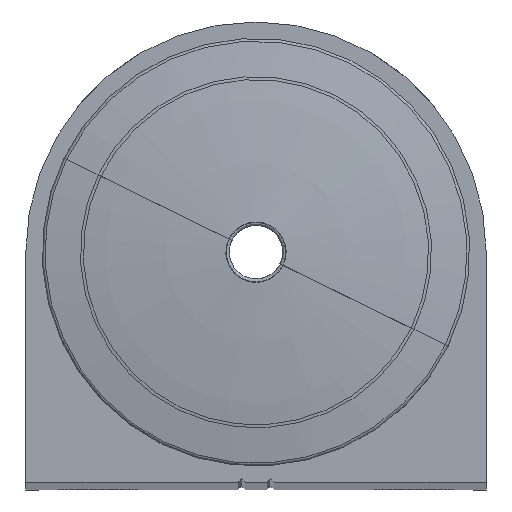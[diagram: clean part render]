
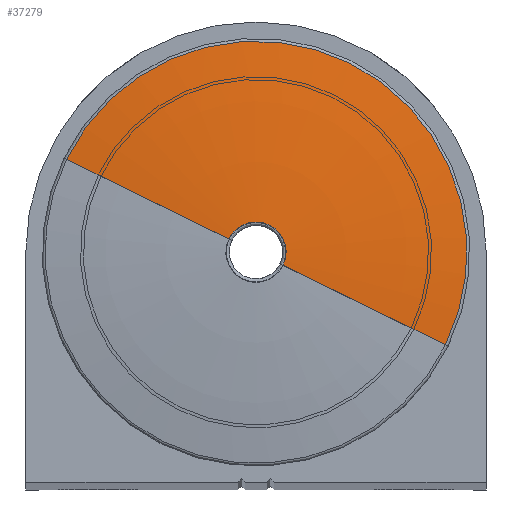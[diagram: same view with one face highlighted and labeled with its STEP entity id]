
A CAD part, top view. The second image highlights one B-rep face of the part: STEP entity #37279.
In plain terms, the highlighted toroidal (fillet/blend) face has major radius 5.57 mm and minor radius 140 mm.
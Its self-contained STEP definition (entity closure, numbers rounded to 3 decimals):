
#799 = CIRCLE ( 'NONE', #28055, 16.039 ) ;
#910 = CARTESIAN_POINT ( 'NONE',  ( 20.673, 14.539, 84.56 ) ) ;
#997 = EDGE_CURVE ( 'NONE', #20792, #35763, #18805, .T. ) ;
#1396 = CARTESIAN_POINT ( 'NONE',  ( 4.21, 22.593, 86.017 ) ) ;
#1439 = CIRCLE ( 'NONE', #32069, 140. ) ;
#1531 = VERTEX_POINT ( 'NONE', #4150 ) ;
#2461 = VERTEX_POINT ( 'NONE', #1396 ) ;
#4150 = CARTESIAN_POINT ( 'NONE',  ( -8.14, 28.636, 84.56 ) ) ;
#4397 = CARTESIAN_POINT ( 'NONE',  ( 6.267, 21.587, 86.017 ) ) ;
#5458 = ORIENTED_EDGE ( 'NONE', *, *, #997, .T. ) ;
#6773 = EDGE_CURVE ( 'NONE', #2461, #20792, #8320, .T. ) ;
#7141 = EDGE_CURVE ( 'NONE', #35763, #1531, #799, .T. ) ;
#7413 = DIRECTION ( 'NONE',  ( -0.898, 0.439, 0. ) ) ;
#8320 = CIRCLE ( 'NONE', #28798, 2.289 ) ;
#10531 = DIRECTION ( 'NONE',  ( 0.439, 0.898, 0. ) ) ;
#12623 = CARTESIAN_POINT ( 'NONE',  ( 6.267, 21.587, 84.56 ) ) ;
#14755 = DIRECTION ( 'NONE',  ( -0.439, -0.898, 0. ) ) ;
#15393 = DIRECTION ( 'NONE',  ( 0., 0., -1. ) ) ;
#15616 = DIRECTION ( 'NONE',  ( -0.898, 0.439, 0. ) ) ;
#15654 = ORIENTED_EDGE ( 'NONE', *, *, #6773, .T. ) ;
#18051 = AXIS2_PLACEMENT_3D ( 'NONE', #18177, #15393, #18430 ) ;
#18177 = CARTESIAN_POINT ( 'NONE',  ( 6.267, 21.587, -53.762 ) ) ;
#18430 = DIRECTION ( 'NONE',  ( -0.898, 0.439, 0. ) ) ;
#18805 = CIRCLE ( 'NONE', #20681, 140. ) ;
#20681 = AXIS2_PLACEMENT_3D ( 'NONE', #28470, #10531, #31511 ) ;
#20792 = VERTEX_POINT ( 'NONE', #35841 ) ;
#24405 = EDGE_LOOP ( 'NONE', ( #15654, #5458, #37568, #29649 ) ) ;
#25385 = DIRECTION ( 'NONE',  ( 0., 0., -1. ) ) ;
#28055 = AXIS2_PLACEMENT_3D ( 'NONE', #12623, #33626, #15616 ) ;
#28470 = CARTESIAN_POINT ( 'NONE',  ( 1.263, 24.035, -53.762 ) ) ;
#28798 = AXIS2_PLACEMENT_3D ( 'NONE', #4397, #25385, #7413 ) ;
#29649 = ORIENTED_EDGE ( 'NONE', *, *, #34708, .F. ) ;
#30888 = TOROIDAL_SURFACE ( 'NONE', #18051, -5.57, 140. ) ;
#31511 = DIRECTION ( 'NONE',  ( -0.898, 0.439, 0. ) ) ;
#32069 = AXIS2_PLACEMENT_3D ( 'NONE', #32746, #14755, #35788 ) ;
#32746 = CARTESIAN_POINT ( 'NONE',  ( 11.27, 19.139, -53.762 ) ) ;
#33626 = DIRECTION ( 'NONE',  ( 0., 0., 1. ) ) ;
#34708 = EDGE_CURVE ( 'NONE', #2461, #1531, #1439, .T. ) ;
#35763 = VERTEX_POINT ( 'NONE', #910 ) ;
#35788 = DIRECTION ( 'NONE',  ( 0.898, -0.439, 0. ) ) ;
#35841 = CARTESIAN_POINT ( 'NONE',  ( 8.323, 20.581, 86.017 ) ) ;
#37279 = ADVANCED_FACE ( 'NONE', ( #37971 ), #30888, .T. ) ;
#37568 = ORIENTED_EDGE ( 'NONE', *, *, #7141, .T. ) ;
#37971 = FACE_OUTER_BOUND ( 'NONE', #24405, .T. ) ;
